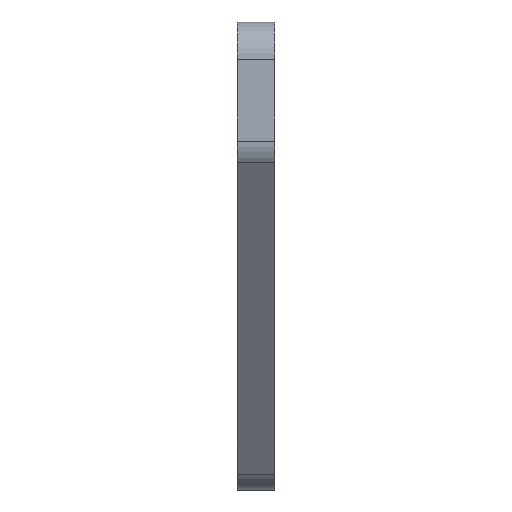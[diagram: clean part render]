
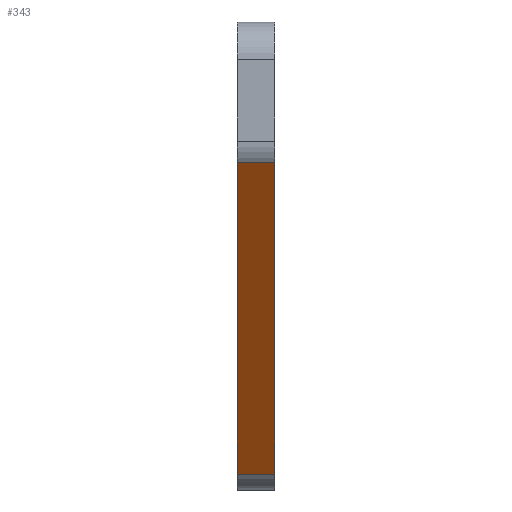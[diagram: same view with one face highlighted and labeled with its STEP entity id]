
A CAD part, left-side view. The second image highlights one B-rep face of the part: STEP entity #343.
In plain terms, the highlighted planar face has unit normal (-0.819, 0, -0.574).
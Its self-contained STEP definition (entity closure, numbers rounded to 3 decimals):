
#12 = EDGE_CURVE ( 'NONE', #573, #158, #267, .T. ) ;
#25 = DIRECTION ( 'NONE',  ( -0.574, 0., 0.819 ) ) ;
#35 = VERTEX_POINT ( 'NONE', #255 ) ;
#101 = CARTESIAN_POINT ( 'NONE',  ( -4.993, 2., -6.647 ) ) ;
#131 = DIRECTION ( 'NONE',  ( 0., -1., 0. ) ) ;
#141 = FACE_OUTER_BOUND ( 'NONE', #370, .T. ) ;
#144 = ORIENTED_EDGE ( 'NONE', *, *, #613, .F. ) ;
#147 = CARTESIAN_POINT ( 'NONE',  ( -16.638, 2., 9.983 ) ) ;
#154 = ORIENTED_EDGE ( 'NONE', *, *, #12, .T. ) ;
#156 = EDGE_CURVE ( 'NONE', #573, #392, #465, .T. ) ;
#158 = VERTEX_POINT ( 'NONE', #817 ) ;
#184 = VECTOR ( 'NONE', #254, 1000. ) ;
#247 = CARTESIAN_POINT ( 'NONE',  ( -16.638, 2., 9.983 ) ) ;
#254 = DIRECTION ( 'NONE',  ( 0., -1., 0. ) ) ;
#255 = CARTESIAN_POINT ( 'NONE',  ( -16.638, 0., 9.983 ) ) ;
#267 = LINE ( 'NONE', #282, #946 ) ;
#282 = CARTESIAN_POINT ( 'NONE',  ( -4.993, 2., -6.647 ) ) ;
#341 = LINE ( 'NONE', #638, #346 ) ;
#343 = ADVANCED_FACE ( 'NONE', ( #141 ), #685, .F. ) ;
#346 = VECTOR ( 'NONE', #25, 1000. ) ;
#370 = EDGE_LOOP ( 'NONE', ( #782, #144, #506, #154 ) ) ;
#386 = CARTESIAN_POINT ( 'NONE',  ( -16.638, 2., 9.983 ) ) ;
#392 = VERTEX_POINT ( 'NONE', #247 ) ;
#465 = LINE ( 'NONE', #386, #908 ) ;
#506 = ORIENTED_EDGE ( 'NONE', *, *, #156, .F. ) ;
#528 = DIRECTION ( 'NONE',  ( -0.574, 0., 0.819 ) ) ;
#538 = DIRECTION ( 'NONE',  ( 0.819, 0., 0.574 ) ) ;
#564 = CARTESIAN_POINT ( 'NONE',  ( -16.638, 2., 9.983 ) ) ;
#573 = VERTEX_POINT ( 'NONE', #101 ) ;
#602 = EDGE_CURVE ( 'NONE', #158, #35, #341, .T. ) ;
#613 = EDGE_CURVE ( 'NONE', #392, #35, #791, .T. ) ;
#638 = CARTESIAN_POINT ( 'NONE',  ( -16.638, 0., 9.983 ) ) ;
#685 = PLANE ( 'NONE',  #832 ) ;
#782 = ORIENTED_EDGE ( 'NONE', *, *, #602, .T. ) ;
#791 = LINE ( 'NONE', #564, #184 ) ;
#817 = CARTESIAN_POINT ( 'NONE',  ( -4.993, 0., -6.647 ) ) ;
#832 = AXIS2_PLACEMENT_3D ( 'NONE', #147, #538, #839 ) ;
#839 = DIRECTION ( 'NONE',  ( 0.574, 0., -0.819 ) ) ;
#908 = VECTOR ( 'NONE', #528, 1000. ) ;
#946 = VECTOR ( 'NONE', #131, 1000. ) ;
